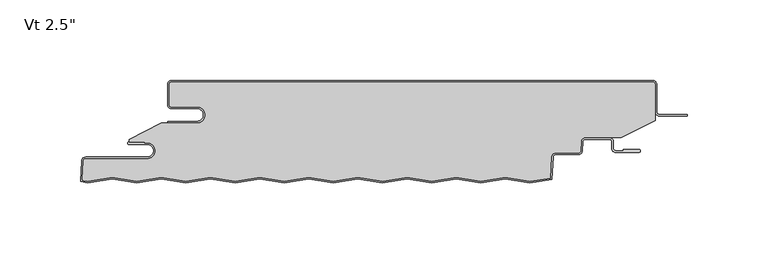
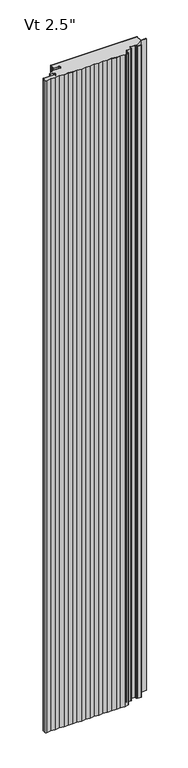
"""IFC4 building model written with IfcOpenShell, lengths in millimetres: plate geometry."""

from ifc_helpers import new_model, si_unit, point, frame, frame_2d, origin, origin_with_axes, place, context, project, spatial, polyline, circle_curve, ellipse_curve, trimmed, segment, composite_curve, outline, extrude, source, transform, mapped, element, save
from ifc_brep_helpers import plane_surface, cylinder_surface, revolved_surface, extruded_surface, advanced_brep


def plate_9ff295e8(model_context):
    return source(origin(), model_context, "Body", "SolidModel", [
        extrude(outline(composite_curve([segment(polyline([(-133.35625, -16.4625), (-149.23125, -16.4625)]), True, "CONTINUOUS"), segment(trimmed(circle_curve(frame_2d((-149.23125, -15.08125)), 1.38125), [point((-149.23125, -16.4625))], [point((-150.6125, -15.08125))], False, "CARTESIAN"), True, "CONTINUOUS"), segment(polyline([(-150.6125, -15.08125), (-150.6125, -2.38125)]), True, "CONTINUOUS"), segment(trimmed(circle_curve(frame_2d((-149.23125, -2.38125)), 1.38125), [point((-150.6125, -2.38125))], [point((-149.23125, -1.0))], False, "CARTESIAN"), True, "CONTINUOUS"), segment(polyline([(-149.23125, -1.0), (149.21875, -1.0)]), True, "CONTINUOUS"), segment(trimmed(circle_curve(frame_2d((149.21875, -2.38125)), 1.38125), [point((149.21875, -1.0))], [point((150.6, -2.38125))], False, "CARTESIAN"), True, "CONTINUOUS"), segment(polyline([(150.6, -2.38125), (150.6, -24.9057308), (129.7830434, -35.5125), (107.3415783, -35.5125)]), True, "CONTINUOUS"), segment(trimmed(circle_curve(frame_2d((107.3415783, -38.1)), 2.5875), [point((107.3415783, -35.5125))], [point((104.7576244, -37.9645807))], True, "CARTESIAN"), True, "CONTINUOUS"), segment(polyline([(104.7576244, -37.9645807), (104.4555481, -43.728539)]), True, "CONTINUOUS"), segment(trimmed(circle_curve(frame_2d((103.0761911, -43.65625)), 1.38125), [point((104.4555481, -43.728539))], [point((103.0761911, -45.0375))], False, "CARTESIAN"), True, "CONTINUOUS"), segment(polyline([(103.0761911, -45.0375), (88.9198847, -45.0375)]), True, "CONTINUOUS"), segment(trimmed(circle_curve(frame_2d((88.9198847, -47.625)), 2.5875), [point((88.9198847, -45.0375))], [point((86.3359307, -47.4895807))], True, "CARTESIAN"), True, "CONTINUOUS"), segment(polyline([(86.3359307, -47.4895807), (85.6427661, -60.71595), (72.86, -62.7611926), (57.8225675, -60.3552034), (42.5825675, -62.7936034), (27.3425675, -60.3552034), (12.1025675, -62.7936034), (-3.1374325, -60.3552034), (-18.3774325, -62.7936034), (-33.6174325, -60.3552034), (-48.8574325, -62.7936034), (-64.0974325, -60.3552034), (-79.3374325, -62.7936034), (-94.5774325, -60.3552034), (-109.8174325, -62.7936034), (-125.0574325, -60.3552034), (-140.2974325, -62.7936034), (-155.5374325, -60.3552034), (-170.7774325, -62.7936034), (-186.0174325, -60.3552034), (-201.2574325, -62.7936034), (-203.5234208, -62.4310452)]), True, "CONTINUOUS"), segment(trimmed(circle_curve(frame_2d((-203.0924535, -61.11875)), 1.38125), [point((-203.5234208, -62.4310452))], [point((-204.4718106, -61.046461))], False, "CARTESIAN"), True, "CONTINUOUS"), segment(polyline([(-204.4718106, -61.046461), (-203.8894291, -49.933961)]), True, "CONTINUOUS"), segment(trimmed(circle_curve(frame_2d((-202.5100721, -50.00625)), 1.38125), [point((-203.8894291, -49.933961))], [point((-202.5100721, -48.625))], False, "CARTESIAN"), True, "CONTINUOUS"), segment(polyline([(-202.5100721, -48.625), (-164.3267674, -48.625)]), True, "CONTINUOUS"), segment(trimmed(circle_curve(frame_2d((-164.3267674, -43.65625)), 4.96875), [point((-164.3267674, -48.625))], [point((-164.3267674, -38.6875))], True, "CARTESIAN"), True, "CONTINUOUS"), segment(polyline([(-164.3267674, -38.6875), (-165.9142674, -38.89375), (-165.9142674, -38.1), (-175.425, -38.1), (-175.425, -36.5326309), (-155.5385922, -26.4), (-133.35625, -26.4)]), True, "CONTINUOUS"), segment(trimmed(circle_curve(frame_2d((-133.35625, -21.43125)), 4.96875), [point((-133.35625, -26.4))], [point((-133.35625, -16.4625))], True, "CARTESIAN"), True, "CONTINUOUS")], self_intersect=False)), origin_with_axes(), (0.0, 0.0, 1.0), 2400.0),
        extrude(outline(composite_curve([segment(polyline([(-151.6125, -25.4), (-133.35625, -25.4)]), True, "CONTINUOUS"), segment(trimmed(circle_curve(frame_2d((-133.35625, -21.43125)), 3.96875), [point((-133.35625, -25.4))], [point((-133.35625, -17.4625))], True, "CARTESIAN"), True, "CONTINUOUS"), segment(polyline([(-133.35625, -17.4625), (-149.23125, -17.4625)]), True, "CONTINUOUS"), segment(trimmed(circle_curve(frame_2d((-149.23125, -15.08125)), 2.38125), [point((-149.23125, -17.4625))], [point((-151.6125, -15.08125))], False, "CARTESIAN"), True, "CONTINUOUS"), segment(polyline([(-151.6125, -15.08125), (-151.6125, -2.38125)]), True, "CONTINUOUS"), segment(trimmed(circle_curve(frame_2d((-149.23125, -2.38125)), 2.38125), [point((-151.6125, -2.38125))], [point((-149.23125, 0.0))], False, "CARTESIAN"), True, "CONTINUOUS"), segment(polyline([(-149.23125, 0.0), (149.21875, 0.0)]), True, "CONTINUOUS"), segment(trimmed(circle_curve(frame_2d((149.21875, -2.38125)), 2.38125), [point((149.21875, 0.0))], [point((151.6, -2.38125))], False, "CARTESIAN"), True, "CONTINUOUS"), segment(polyline([(151.6, -2.38125), (151.6, -19.446875)]), True, "CONTINUOUS"), segment(trimmed(circle_curve(frame_2d((153.1875, -19.446875)), 1.5875), [point((151.6, -19.446875))], [point((153.1875, -21.034375))], True, "CARTESIAN"), True, "CONTINUOUS"), segment(polyline([(153.1875, -21.034375), (170.65, -21.034375), (170.65, -22.034375), (153.1875, -22.034375)]), True, "CONTINUOUS"), segment(trimmed(circle_curve(frame_2d((153.1875, -19.446875)), 2.5875), [point((153.1875, -22.034375))], [point((150.6, -19.446875))], False, "CARTESIAN"), True, "CONTINUOUS"), segment(polyline([(150.6, -19.446875), (150.6, -2.38125)]), True, "CONTINUOUS"), segment(trimmed(circle_curve(frame_2d((149.21875, -2.38125)), 1.38125), [point((150.6, -2.38125))], [point((149.21875, -1.0))], True, "CARTESIAN"), True, "CONTINUOUS"), segment(polyline([(149.21875, -1.0), (-149.23125, -1.0)]), True, "CONTINUOUS"), segment(trimmed(circle_curve(frame_2d((-149.23125, -2.38125)), 1.38125), [point((-149.23125, -1.0))], [point((-150.6125, -2.38125))], True, "CARTESIAN"), True, "CONTINUOUS"), segment(polyline([(-150.6125, -2.38125), (-150.6125, -15.08125)]), True, "CONTINUOUS"), segment(trimmed(circle_curve(frame_2d((-149.23125, -15.08125)), 1.38125), [point((-150.6125, -15.08125))], [point((-149.23125, -16.4625))], True, "CARTESIAN"), True, "CONTINUOUS"), segment(polyline([(-149.23125, -16.4625), (-133.35625, -16.4625)]), True, "CONTINUOUS"), segment(trimmed(circle_curve(frame_2d((-133.35625, -21.43125)), 4.96875), [point((-133.35625, -16.4625))], [point((-133.35625, -26.4))], False, "CARTESIAN"), True, "CONTINUOUS"), segment(polyline([(-133.35625, -26.4), (-151.6125, -26.4), (-151.6125, -25.4)]), True, "CONTINUOUS")], self_intersect=False)), origin_with_axes(), (0.0, 0.0, 1.0), 2400.0),
        advanced_brep(
        [(-175.6377049, -38.1, 2400.0), (-175.6377049, -39.6875, 2400.0), (-164.3267674, -39.6875, 2400.0), (-164.3267674, -47.625, 2400.0), (-202.5100721, -47.625, 2400.0), (-204.8880586, -49.881625, 2400.0), (-205.5658062, -62.813818, 2400.0), (-201.2771686, -63.5, 2400.0), (-186.0371686, -61.0616, 2400.0), (-170.7971686, -63.5, 2400.0), (-155.5571686, -61.0616, 2400.0), (-140.3171686, -63.5, 2400.0), (-125.0771686, -61.0616, 2400.0), (-109.8371686, -63.5, 2400.0), (-94.5971686, -61.0616, 2400.0), (-79.3571686, -63.5, 2400.0), (-64.1171686, -61.0616, 2400.0), (-48.8771686, -63.5, 2400.0), (-33.6371686, -61.0616, 2400.0), (-18.3971686, -63.5, 2400.0), (-3.1571686, -61.0616, 2400.0), (12.0828314, -63.5, 2400.0), (27.3228314, -61.0616, 2400.0), (42.5628314, -63.5, 2400.0), (57.8028314, -61.0616, 2400.0), (72.9415476, -63.4837946, 2400.0), (86.6120135, -61.3289309, 2400.0), (87.3345603, -47.5419167, 2400.0), (88.9198847, -46.0375, 2400.0), (103.0761911, -46.0375, 2400.0), (105.4541776, -43.780875, 2400.0), (105.7562539, -38.0169167, 2400.0), (107.3415783, -36.5125, 2400.0), (122.2169826, -36.5125, 2400.0), (123.8044826, -38.1, 2400.0), (123.8044826, -42.2671875, 2400.0), (126.1857326, -44.6484375, 2400.0), (140.6773532, -44.6484375, 2400.0), (140.6773532, -42.8546875, 2400.0), (130.9482326, -42.8546875, 2400.0), (130.9482326, -43.6484375, 2400.0), (126.1857326, -43.6484375, 2400.0), (124.8044826, -42.2671875, 2400.0), (124.8044826, -38.1, 2400.0), (122.2169826, -35.5125, 2400.0), (107.3415783, -35.5125, 2400.0), (104.7576244, -37.9645807, 2400.0), (104.4555481, -43.728539, 2400.0), (103.0761911, -45.0375, 2400.0), (88.9198847, -45.0375, 2400.0), (86.3359307, -47.4895807, 2400.0), (85.6556965, -60.4692225, 2400.0), (73.0428314, -62.4872809, 2400.0), (57.8028314, -60.0488809, 2400.0), (42.5628314, -62.4872809, 2400.0), (27.3228314, -60.0488809, 2400.0), (12.0828314, -62.4872809, 2400.0), (-3.1571686, -60.0488809, 2400.0), (-18.3971686, -62.4872809, 2400.0), (-33.6371686, -60.0488809, 2400.0), (-48.8771686, -62.4872809, 2400.0), (-64.1171686, -60.0488809, 2400.0), (-79.3571686, -62.4872809, 2400.0), (-94.5971686, -60.0488809, 2400.0), (-109.8371686, -62.4872809, 2400.0), (-125.0771686, -60.0488809, 2400.0), (-140.3171686, -62.4872809, 2400.0), (-155.5571686, -60.0488809, 2400.0), (-170.7971686, -62.4872809, 2400.0), (-186.0371686, -60.0488809, 2400.0), (-201.2771686, -62.4872809, 2400.0), (-204.5201277, -61.9684074, 2400.0), (-203.8894291, -49.933961, 2400.0), (-202.5100721, -48.625, 2400.0), (-164.3267674, -48.625, 2400.0), (-164.3267674, -38.6875, 2400.0), (-165.9142674, -38.89375, 2400.0), (-165.9142674, -38.1, 2400.0), (-175.6377049, -38.1, 0.0), (-165.9142674, -38.1, 0.0), (-165.9142674, -38.89375, 0.0), (-164.3267674, -38.6875, 0.0), (-164.3267674, -48.625, 0.0), (-202.5100721, -48.625, 0.0), (-203.8894291, -49.933961, 0.0), (-204.5201277, -61.9684074, 0.0), (-201.2771686, -62.4872809, 0.0), (-186.0371686, -60.0488809, 0.0), (-170.7971686, -62.4872809, 0.0), (-155.5571686, -60.0488809, 0.0), (-140.3171686, -62.4872809, 0.0), (-125.0771686, -60.0488809, 0.0), (-109.8371686, -62.4872809, 0.0), (-94.5971686, -60.0488809, 0.0), (-79.3571686, -62.4872809, 0.0), (-64.1171686, -60.0488809, 0.0), (-48.8771686, -62.4872809, 0.0), (-33.6371686, -60.0488809, 0.0), (-18.3971686, -62.4872809, 0.0), (-3.1571686, -60.0488809, 0.0), (12.0828314, -62.4872809, 0.0), (27.3228314, -60.0488809, 0.0), (42.5628314, -62.4872809, 0.0), (57.8028314, -60.0488809, 0.0), (72.9415476, -62.4710755, 0.0), (85.6556965, -60.4692225, 0.0), (86.3359307, -47.4895807, 0.0), (88.9198847, -45.0375, 0.0), (103.0761911, -45.0375, 0.0), (104.4555481, -43.728539, 0.0), (104.7576244, -37.9645807, 0.0), (107.3415783, -35.5125, 0.0), (122.2169826, -35.5125, 0.0), (124.8044826, -38.1, 0.0), (124.8044826, -42.2671875, 0.0), (126.1857326, -43.6484375, 0.0), (130.9482326, -43.6484375, 0.0), (130.9482326, -42.8546875, 0.0), (140.6773532, -42.8546875, 0.0), (140.6773532, -44.6484375, 0.0), (126.1857326, -44.6484375, 0.0), (123.8044826, -42.2671875, 0.0), (123.8044826, -38.1, 0.0), (122.2169826, -36.5125, 0.0), (107.3415783, -36.5125, 0.0), (105.7562539, -38.0169167, 0.0), (105.4541776, -43.780875, 0.0), (103.0761911, -46.0375, 0.0), (88.9198847, -46.0375, 0.0), (87.3345603, -47.5419167, 0.0), (86.6120135, -61.3289309, 0.0), (73.0428314, -63.5, 0.0), (57.8028314, -61.0616, 0.0), (42.5628314, -63.5, 0.0), (27.3228314, -61.0616, 0.0), (12.0828314, -63.5, 0.0), (-3.1571686, -61.0616, 0.0), (-18.3971686, -63.5, 0.0), (-33.6371686, -61.0616, 0.0), (-48.8771686, -63.5, 0.0), (-64.1171686, -61.0616, 0.0), (-79.3571686, -63.5, 0.0), (-94.5971686, -61.0616, 0.0), (-109.8371686, -63.5, 0.0), (-125.0771686, -61.0616, 0.0), (-140.3171686, -63.5, 0.0), (-155.5571686, -61.0616, 0.0), (-170.7971686, -63.5, 0.0), (-186.0371686, -61.0616, 0.0), (-201.2771686, -63.5, 0.0), (-205.5658062, -62.813818, 0.0), (-204.8880586, -49.881625, 0.0), (-202.5100721, -47.625, 0.0), (-164.3267674, -47.625, 0.0), (-164.3267674, -39.6875, 0.0), (-175.6377049, -39.6875, 0.0)],
        [
            (0, 1, circle_curve(frame((-175.6377049, -38.89375, 2400.0), z_axis=(0.0, 0.0, 1.0), x_axis=(1.0, 0.0, 0.0)), 0.79375)),
            (1, 2),
            (2, 3, circle_curve(frame((-164.3267674, -43.65625, 2400.0), z_axis=(0.0, 0.0, -1.0), x_axis=(1.0, 0.0, 0.0)), 3.96875)),
            (3, 4),
            (4, 5, circle_curve(frame((-202.5100721, -50.00625, 2400.0), z_axis=(0.0, 0.0, 1.0), x_axis=(1.0, 0.0, 0.0)), 2.38125)),
            (5, 6),
            (6, 7),
            (7, 8),
            (8, 9),
            (9, 10),
            (10, 11),
            (11, 12),
            (12, 13),
            (13, 14),
            (14, 15),
            (15, 16),
            (16, 17),
            (17, 18),
            (18, 19),
            (19, 20),
            (20, 21),
            (21, 22),
            (22, 23),
            (23, 24),
            (24, 25),
            (25, 26),
            (26, 27),
            (27, 28, circle_curve(frame((88.9198847, -47.625, 2400.0), z_axis=(0.0, 0.0, -1.0), x_axis=(1.0, 0.0, 0.0)), 1.5875)),
            (28, 29),
            (29, 30, circle_curve(frame((103.0761911, -43.65625, 2400.0), z_axis=(0.0, 0.0, 1.0), x_axis=(1.0, 0.0, 0.0)), 2.38125)),
            (30, 31),
            (31, 32, circle_curve(frame((107.3415783, -38.1, 2400.0), z_axis=(0.0, 0.0, -1.0), x_axis=(1.0, 0.0, 0.0)), 1.5875)),
            (32, 33),
            (33, 34, circle_curve(frame((122.2169826, -38.1, 2400.0), z_axis=(0.0, 0.0, -1.0), x_axis=(1.0, 0.0, 0.0)), 1.5875)),
            (34, 35),
            (35, 36, circle_curve(frame((126.1857326, -42.2671875, 2400.0), z_axis=(0.0, 0.0, 1.0), x_axis=(1.0, 0.0, 0.0)), 2.38125)),
            (36, 37),
            (37, 38, ellipse_curve(frame((140.6773532, -43.7515625, 2400.0), z_axis=(0.0, 0.0, 1.0), x_axis=(0.0, 1.0, 0.0)), 0.896875, 0.7852275)),
            (38, 39),
            (39, 40),
            (40, 41),
            (41, 42, circle_curve(frame((126.1857326, -42.2671875, 2400.0), z_axis=(0.0, 0.0, -1.0), x_axis=(1.0, 0.0, 0.0)), 1.38125)),
            (42, 43),
            (43, 44, circle_curve(frame((122.2169826, -38.1, 2400.0), z_axis=(0.0, 0.0, 1.0), x_axis=(1.0, 0.0, 0.0)), 2.5875)),
            (44, 45),
            (45, 46, circle_curve(frame((107.3415783, -38.1, 2400.0), z_axis=(0.0, 0.0, 1.0), x_axis=(1.0, 0.0, 0.0)), 2.5875)),
            (46, 47),
            (47, 48, circle_curve(frame((103.0761911, -43.65625, 2400.0), z_axis=(0.0, 0.0, -1.0), x_axis=(1.0, 0.0, 0.0)), 1.38125)),
            (48, 49),
            (49, 50, circle_curve(frame((88.9198847, -47.625, 2400.0), z_axis=(0.0, 0.0, 1.0), x_axis=(1.0, 0.0, 0.0)), 2.5875)),
            (50, 51),
            (51, 52),
            (52, 53),
            (53, 54),
            (54, 55),
            (55, 56),
            (56, 57),
            (57, 58),
            (58, 59),
            (59, 60),
            (60, 61),
            (61, 62),
            (62, 63),
            (63, 64),
            (64, 65),
            (65, 66),
            (66, 67),
            (67, 68),
            (68, 69),
            (69, 70),
            (70, 71),
            (71, 72),
            (72, 73, circle_curve(frame((-202.5100721, -50.00625, 2400.0), z_axis=(0.0, 0.0, -1.0), x_axis=(1.0, 0.0, 0.0)), 1.38125)),
            (73, 74),
            (74, 75, circle_curve(frame((-164.3267674, -43.65625, 2400.0), z_axis=(0.0, 0.0, 1.0), x_axis=(1.0, 0.0, 0.0)), 4.96875)),
            (75, 76),
            (76, 77),
            (77, 0),
            (78, 79),
            (79, 80),
            (80, 81),
            (81, 82, circle_curve(frame((-164.3267674, -43.65625, 0.0), z_axis=(0.0, 0.0, -1.0), x_axis=(1.0, 0.0, 0.0)), 4.96875)),
            (82, 83),
            (83, 84, circle_curve(frame((-202.5100721, -50.00625, 0.0), z_axis=(0.0, 0.0, 1.0), x_axis=(1.0, 0.0, 0.0)), 1.38125)),
            (84, 85),
            (85, 86),
            (86, 87),
            (87, 88),
            (88, 89),
            (89, 90),
            (90, 91),
            (91, 92),
            (92, 93),
            (93, 94),
            (94, 95),
            (95, 96),
            (96, 97),
            (97, 98),
            (98, 99),
            (99, 100),
            (100, 101),
            (101, 102),
            (102, 103),
            (103, 104),
            (104, 105),
            (105, 106),
            (106, 107, circle_curve(frame((88.9198847, -47.625, 0.0), z_axis=(0.0, 0.0, -1.0), x_axis=(1.0, 0.0, 0.0)), 2.5875)),
            (107, 108),
            (108, 109, circle_curve(frame((103.0761911, -43.65625, 0.0), z_axis=(0.0, 0.0, 1.0), x_axis=(1.0, 0.0, 0.0)), 1.38125)),
            (109, 110),
            (110, 111, circle_curve(frame((107.3415783, -38.1, 0.0), z_axis=(0.0, 0.0, -1.0), x_axis=(1.0, 0.0, 0.0)), 2.5875)),
            (111, 112),
            (112, 113, circle_curve(frame((122.2169826, -38.1, 0.0), z_axis=(0.0, 0.0, -1.0), x_axis=(1.0, 0.0, 0.0)), 2.5875)),
            (113, 114),
            (114, 115, circle_curve(frame((126.1857326, -42.2671875, 0.0), z_axis=(0.0, 0.0, 1.0), x_axis=(1.0, 0.0, 0.0)), 1.38125)),
            (115, 116),
            (116, 117),
            (117, 118),
            (118, 119, ellipse_curve(frame((140.6773532, -43.7515625, 0.0), z_axis=(0.0, 0.0, -1.0), x_axis=(0.0, 1.0, 0.0)), 0.896875, 0.7852275)),
            (119, 120),
            (120, 121, circle_curve(frame((126.1857326, -42.2671875, 0.0), z_axis=(0.0, 0.0, -1.0), x_axis=(1.0, 0.0, 0.0)), 2.38125)),
            (121, 122),
            (122, 123, circle_curve(frame((122.2169826, -38.1, 0.0), z_axis=(0.0, 0.0, 1.0), x_axis=(1.0, 0.0, 0.0)), 1.5875)),
            (123, 124),
            (124, 125, circle_curve(frame((107.3415783, -38.1, 0.0), z_axis=(0.0, 0.0, 1.0), x_axis=(1.0, 0.0, 0.0)), 1.5875)),
            (125, 126),
            (126, 127, circle_curve(frame((103.0761911, -43.65625, 0.0), z_axis=(0.0, 0.0, -1.0), x_axis=(1.0, 0.0, 0.0)), 2.38125)),
            (127, 128),
            (128, 129, circle_curve(frame((88.9198847, -47.625, 0.0), z_axis=(0.0, 0.0, 1.0), x_axis=(1.0, 0.0, 0.0)), 1.5875)),
            (129, 130),
            (130, 131),
            (131, 132),
            (132, 133),
            (133, 134),
            (134, 135),
            (135, 136),
            (136, 137),
            (137, 138),
            (138, 139),
            (139, 140),
            (140, 141),
            (141, 142),
            (142, 143),
            (143, 144),
            (144, 145),
            (145, 146),
            (146, 147),
            (147, 148),
            (148, 149),
            (149, 150),
            (150, 151),
            (151, 152, circle_curve(frame((-202.5100721, -50.00625, 0.0), z_axis=(0.0, 0.0, -1.0), x_axis=(1.0, 0.0, 0.0)), 2.38125)),
            (152, 153),
            (153, 154, circle_curve(frame((-164.3267674, -43.65625, 0.0), z_axis=(0.0, 0.0, 1.0), x_axis=(1.0, 0.0, 0.0)), 3.96875)),
            (154, 155),
            (155, 78, circle_curve(frame((-175.6377049, -38.89375, 0.0), z_axis=(0.0, 0.0, -1.0), x_axis=(1.0, 0.0, 0.0)), 0.79375)),
            (77, 79),
            (78, 0),
            (155, 1),
            (154, 2),
            (153, 3),
            (152, 4),
            (151, 5),
            (150, 6),
            (27, 129),
            (128, 28),
            (127, 29),
            (126, 30),
            (125, 31),
            (124, 32),
            (72, 84),
            (83, 73),
            (71, 85),
            (49, 107),
            (106, 50),
            (48, 108),
            (47, 109),
            (46, 110),
            (45, 111),
            (40, 116),
            (115, 41),
            (114, 42),
            (113, 43),
            (123, 33),
            (122, 34),
            (121, 35),
            (120, 36),
            (119, 37),
            (44, 112),
            (82, 74),
            (81, 75),
            (76, 80),
            (39, 117),
            (38, 118),
            (26, 130),
            (105, 51),
            (24, 132),
            (131, 25),
            (52, 104),
            (103, 53),
            (102, 54),
            (101, 55),
            (100, 56),
            (65, 91),
            (90, 66),
            (89, 67),
            (88, 68),
            (87, 69),
            (86, 70),
            (149, 7),
            (148, 8),
            (147, 9),
            (146, 10),
            (145, 11),
            (144, 12),
            (143, 13),
            (142, 14),
            (141, 15),
            (140, 16),
            (139, 17),
            (138, 18),
            (21, 135),
            (134, 22),
            (133, 23),
            (20, 136),
            (19, 137),
            (64, 92),
            (63, 93),
            (62, 94),
            (61, 95),
            (60, 96),
            (59, 97),
            (58, 98),
            (57, 99),
        ],
        [
            plane_surface(frame((-0.00625, -63.5, 2400.0), z_axis=(0.0, 0.0, 1.0), x_axis=(0.0, -1.0, 0.0))),
            plane_surface(frame((-0.00625, -63.5, 0.0), z_axis=(0.0, 0.0, -1.0), x_axis=(0.0, -1.0, 0.0))),
            plane_surface(frame((-175.6377049, -38.1, 2400.0), z_axis=(0.0, 1.0, 0.0), x_axis=(0.0, 0.0, -1.0))),
            cylinder_surface(frame((-175.6377049, -38.89375, 2400.0), z_axis=(0.0, 0.0, 1.0), x_axis=(1.0, 0.0, 0.0)), 0.79375),
            plane_surface(frame((-164.3267674, -39.6875, 2400.0), z_axis=(0.0, -1.0, 0.0), x_axis=(0.0, 0.0, -1.0))),
            revolved_surface(polyline([(-160.3580174, -43.65625, 0.0), (-160.3580174, -43.65625, 2400.0)]), (-164.3267674, -43.65625, 2400.0), (0.0, 0.0, -1.0)),
            plane_surface(frame((-202.5100721, -47.625, 2400.0), z_axis=(0.0, 1.0, 0.0), x_axis=(0.0, 0.0, -1.0))),
            cylinder_surface(frame((-202.5100721, -50.00625, 2400.0), z_axis=(0.0, 0.0, 1.0), x_axis=(1.0, 0.0, 0.0)), 2.38125),
            plane_surface(frame((-205.5658062, -62.813818, 2400.0), z_axis=(-0.9986295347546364, 0.05233595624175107, 0.0), x_axis=(0.0, 0.0, -1.0))),
            revolved_surface(polyline([(90.5073847, -47.625, 0.0), (90.5073847, -47.625, 2400.0)]), (88.9198847, -47.625, 2400.0), (0.0, 0.0, -1.0)),
            plane_surface(frame((103.0761911, -46.0375, 2400.0), z_axis=(0.0, -1.0, 0.0), x_axis=(0.0, 0.0, -1.0))),
            cylinder_surface(frame((103.0761911, -43.65625, 2400.0), z_axis=(0.0, 0.0, 1.0), x_axis=(1.0, 0.0, 0.0)), 2.38125),
            plane_surface(frame((105.7562539, -38.0169167, 2400.0), z_axis=(0.9986295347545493, -0.052335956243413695, 0.0), x_axis=(0.0, 0.0, -1.0))),
            revolved_surface(polyline([(108.9290783, -38.1, 0.0), (108.9290783, -38.1, 2400.0)]), (107.3415783, -38.1, 2400.0), (0.0, 0.0, -1.0)),
            revolved_surface(polyline([(-201.1288221, -50.00625, 0.0), (-201.1288221, -50.00625, 2400.0)]), (-202.5100721, -50.00625, 2400.0), (0.0, 0.0, -1.0)),
            plane_surface(frame((-203.8894291, -49.933961, 2400.0), z_axis=(0.9986295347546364, -0.05233595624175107, 0.0), x_axis=(0.0, 0.0, -1.0))),
            cylinder_surface(frame((88.9198847, -47.625, 2400.0), z_axis=(0.0, 0.0, 1.0), x_axis=(1.0, 0.0, 0.0)), 2.5875),
            plane_surface(frame((88.9198847, -45.0375, 2400.0), z_axis=(0.0, 1.0, 0.0), x_axis=(0.0, 0.0, -1.0))),
            revolved_surface(polyline([(104.4574411, -43.65625, 0.0), (104.4574411, -43.65625, 2400.0)]), (103.0761911, -43.65625, 2400.0), (0.0, 0.0, -1.0)),
            plane_surface(frame((104.4555481, -43.728539, 2400.0), z_axis=(-0.998629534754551, 0.05233595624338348, 0.0), x_axis=(0.0, 0.0, -1.0))),
            cylinder_surface(frame((107.3415783, -38.1, 2400.0), z_axis=(0.0, 0.0, 1.0), x_axis=(1.0, 0.0, 0.0)), 2.5875),
            plane_surface(frame((126.1857326, -43.6484375, 2400.0), z_axis=(0.0, 1.0, 0.0), x_axis=(0.0, 0.0, -1.0))),
            revolved_surface(polyline([(127.56698259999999, -42.2671875, 0.0), (127.56698259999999, -42.2671875, 2400.0)]), (126.1857326, -42.2671875, 2400.0), (0.0, 0.0, -1.0)),
            plane_surface(frame((124.8044826, -38.1, 2400.0), z_axis=(1.0, 0.0, 0.0), x_axis=(0.0, 0.0, -1.0))),
            plane_surface(frame((122.2169826, -36.5125, 2400.0), z_axis=(0.0, -1.0, 0.0), x_axis=(0.0, 0.0, -1.0))),
            revolved_surface(polyline([(123.8044826, -38.1, 0.0), (123.8044826, -38.1, 2400.0)]), (122.2169826, -38.1, 2400.0), (0.0, 0.0, -1.0)),
            plane_surface(frame((123.8044826, -42.2671875, 2400.0), z_axis=(-1.0, 0.0, 0.0), x_axis=(0.0, 0.0, -1.0))),
            cylinder_surface(frame((126.1857326, -42.2671875, 2400.0), z_axis=(0.0, 0.0, 1.0), x_axis=(1.0, 0.0, 0.0)), 2.38125),
            plane_surface(frame((140.6773532, -44.6484375, 2400.0), z_axis=(0.0, -1.0, 0.0), x_axis=(0.0, 0.0, -1.0))),
            plane_surface(frame((107.3415783, -35.5125, 2400.0), z_axis=(0.0, 1.0, 0.0), x_axis=(0.0, 0.0, -1.0))),
            cylinder_surface(frame((122.2169826, -38.1, 2400.0), z_axis=(0.0, 0.0, 1.0), x_axis=(1.0, 0.0, 0.0)), 2.5875),
            plane_surface(frame((-164.3267674, -48.625, 2400.0), z_axis=(0.0, -1.0, 0.0), x_axis=(0.0, 0.0, -1.0))),
            cylinder_surface(frame((-164.3267674, -43.65625, 2400.0), z_axis=(0.0, 0.0, 1.0), x_axis=(1.0, 0.0, 0.0)), 4.96875),
            plane_surface(frame((-165.9142674, -38.1, 2400.0), z_axis=(1.0, 0.0, 0.0), x_axis=(0.0, 0.0, -1.0))),
            plane_surface(frame((-165.9142674, -38.89375, 2400.0), z_axis=(-0.12883844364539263, 0.9916655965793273, 0.0), x_axis=(0.0, 0.0, -1.0))),
            plane_surface(frame((130.9482326, -43.6484375, 2400.0), z_axis=(-1.0, 0.0, 0.0), x_axis=(0.0, 0.0, -1.0))),
            plane_surface(frame((130.9482326, -42.8546875, 2400.0), z_axis=(0.0, 1.0, 0.0), x_axis=(0.0, 0.0, -1.0))),
            extruded_surface(trimmed(ellipse_curve(frame((140.6773532, -43.7515625, 2400.0), z_axis=(0.0, 0.0, -1.0), x_axis=(0.0, 1.0, 0.0)), 0.896875, 0.7852275), [point((140.6773532, -42.8546875, 2400.0))], [point((140.6773532, -44.6484375, 2400.0))], True, "CARTESIAN"), (0.0, 0.0, -2400.0), 2400.0),
            plane_surface(frame((87.3345603, -47.5419167, 2400.0), z_axis=(0.9986295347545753, -0.052335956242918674, 0.0), x_axis=(0.0, 0.0, -1.0))),
            plane_surface(frame((85.6556965, -60.4692225, 2400.0), z_axis=(-0.9986295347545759, 0.05233595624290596, 0.0), x_axis=(0.0, 0.0, -1.0))),
            plane_surface(frame((72.9415476, -63.4837946, 2400.0), z_axis=(-0.15799050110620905, -0.9874406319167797, 0.0), x_axis=(0.0, 0.0, -1.0))),
            plane_surface(frame((57.8028314, -60.0488809, 2400.0), z_axis=(0.15799050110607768, 0.9874406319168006, 0.0), x_axis=(0.0, 0.0, -1.0))),
            plane_surface(frame((42.5628314, -62.4872809, 2400.0), z_axis=(-0.15799050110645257, 0.9874406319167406, 0.0), x_axis=(0.0, 0.0, -1.0))),
            plane_surface(frame((27.3228314, -60.0488809, 2400.0), z_axis=(0.157990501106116, 0.9874406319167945, 0.0), x_axis=(0.0, 0.0, -1.0))),
            plane_surface(frame((12.0828314, -62.4872809, 2400.0), z_axis=(-0.15799050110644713, 0.9874406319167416, 0.0), x_axis=(0.0, 0.0, -1.0))),
            plane_surface(frame((-140.3171686, -62.4872809, 2400.0), z_axis=(-0.15799050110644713, 0.9874406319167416, 0.0), x_axis=(0.0, 0.0, -1.0))),
            plane_surface(frame((-155.5571686, -60.0488809, 2400.0), z_axis=(0.15799050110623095, 0.9874406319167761, 0.0), x_axis=(0.0, 0.0, -1.0))),
            plane_surface(frame((-170.7971686, -62.4872809, 2400.0), z_axis=(-0.15799050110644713, 0.9874406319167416, 0.0), x_axis=(0.0, 0.0, -1.0))),
            plane_surface(frame((-186.0371686, -60.0488809, 2400.0), z_axis=(0.157990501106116, 0.9874406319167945, 0.0), x_axis=(0.0, 0.0, -1.0))),
            plane_surface(frame((-201.2771686, -62.4872809, 2400.0), z_axis=(-0.15799050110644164, 0.9874406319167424, 0.0), x_axis=(0.0, 0.0, -1.0))),
            plane_surface(frame((-204.5201277, -61.9684074, 2400.0), z_axis=(0.1579905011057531, 0.9874406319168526, 0.0), x_axis=(0.0, 0.0, -1.0))),
            plane_surface(frame((-201.2771686, -63.5, 2400.0), z_axis=(-0.15799050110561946, -0.9874406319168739, 0.0), x_axis=(0.0, 0.0, -1.0))),
            plane_surface(frame((-186.0371686, -61.0616, 2400.0), z_axis=(0.15799050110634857, -0.9874406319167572, 0.0), x_axis=(0.0, 0.0, -1.0))),
            plane_surface(frame((-170.7971686, -63.5, 2400.0), z_axis=(-0.15799050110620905, -0.9874406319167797, 0.0), x_axis=(0.0, 0.0, -1.0))),
            plane_surface(frame((-155.5571686, -61.0616, 2400.0), z_axis=(0.15799050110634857, -0.9874406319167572, 0.0), x_axis=(0.0, 0.0, -1.0))),
            plane_surface(frame((-140.3171686, -63.5, 2400.0), z_axis=(-0.15799050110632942, -0.9874406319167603, 0.0), x_axis=(0.0, 0.0, -1.0))),
            plane_surface(frame((-125.0771686, -61.0616, 2400.0), z_axis=(0.15799050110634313, -0.9874406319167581, 0.0), x_axis=(0.0, 0.0, -1.0))),
            plane_surface(frame((-109.8371686, -63.5, 2400.0), z_axis=(-0.15799050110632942, -0.9874406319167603, 0.0), x_axis=(0.0, 0.0, -1.0))),
            plane_surface(frame((-94.5971686, -61.0616, 2400.0), z_axis=(0.1579905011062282, -0.9874406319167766, 0.0), x_axis=(0.0, 0.0, -1.0))),
            plane_surface(frame((-79.3571686, -63.5, 2400.0), z_axis=(-0.15799050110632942, -0.9874406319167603, 0.0), x_axis=(0.0, 0.0, -1.0))),
            plane_surface(frame((-64.1171686, -61.0616, 2400.0), z_axis=(0.15799050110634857, -0.9874406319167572, 0.0), x_axis=(0.0, 0.0, -1.0))),
            plane_surface(frame((-48.8771686, -63.5, 2400.0), z_axis=(-0.15799050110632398, -0.9874406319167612, 0.0), x_axis=(0.0, 0.0, -1.0))),
            plane_surface(frame((-33.6371686, -61.0616, 2400.0), z_axis=(0.15799050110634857, -0.9874406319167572, 0.0), x_axis=(0.0, 0.0, -1.0))),
            plane_surface(frame((27.3228314, -61.0616, 2400.0), z_axis=(0.15799050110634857, -0.9874406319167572, 0.0), x_axis=(0.0, 0.0, -1.0))),
            plane_surface(frame((42.5628314, -63.5, 2400.0), z_axis=(-0.15799050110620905, -0.9874406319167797, 0.0), x_axis=(0.0, 0.0, -1.0))),
            plane_surface(frame((57.8028314, -61.0616, 2400.0), z_axis=(0.15799050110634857, -0.9874406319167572, 0.0), x_axis=(0.0, 0.0, -1.0))),
            plane_surface(frame((86.6120135, -61.3289309, 2400.0), z_axis=(0.15799050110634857, -0.9874406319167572, 0.0), x_axis=(0.0, 0.0, -1.0))),
            plane_surface(frame((73.0428314, -62.4872809, 2400.0), z_axis=(-0.15799050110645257, 0.9874406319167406, 0.0), x_axis=(0.0, 0.0, -1.0))),
            plane_surface(frame((12.0828314, -63.5, 2400.0), z_axis=(-0.15799050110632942, -0.9874406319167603, 0.0), x_axis=(0.0, 0.0, -1.0))),
            plane_surface(frame((-3.1571686, -61.0616, 2400.0), z_axis=(0.15799050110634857, -0.9874406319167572, 0.0), x_axis=(0.0, 0.0, -1.0))),
            plane_surface(frame((-18.3971686, -63.5, 2400.0), z_axis=(-0.15799050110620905, -0.9874406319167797, 0.0), x_axis=(0.0, 0.0, -1.0))),
            plane_surface(frame((-125.0771686, -60.0488809, 2400.0), z_axis=(0.15799050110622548, 0.987440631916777, 0.0), x_axis=(0.0, 0.0, -1.0))),
            plane_surface(frame((-109.8371686, -62.4872809, 2400.0), z_axis=(-0.15799050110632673, 0.9874406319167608, 0.0), x_axis=(0.0, 0.0, -1.0))),
            plane_surface(frame((-94.5971686, -60.0488809, 2400.0), z_axis=(0.15799050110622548, 0.987440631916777, 0.0), x_axis=(0.0, 0.0, -1.0))),
            plane_surface(frame((-79.3571686, -62.4872809, 2400.0), z_axis=(-0.15799050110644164, 0.9874406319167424, 0.0), x_axis=(0.0, 0.0, -1.0))),
            plane_surface(frame((-64.1171686, -60.0488809, 2400.0), z_axis=(0.15799050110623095, 0.9874406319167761, 0.0), x_axis=(0.0, 0.0, -1.0))),
            plane_surface(frame((-48.8771686, -62.4872809, 2400.0), z_axis=(-0.15799050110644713, 0.9874406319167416, 0.0), x_axis=(0.0, 0.0, -1.0))),
            plane_surface(frame((-33.6371686, -60.0488809, 2400.0), z_axis=(0.157990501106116, 0.9874406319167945, 0.0), x_axis=(0.0, 0.0, -1.0))),
            plane_surface(frame((-18.3971686, -62.4872809, 2400.0), z_axis=(-0.15799050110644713, 0.9874406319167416, 0.0), x_axis=(0.0, 0.0, -1.0))),
            plane_surface(frame((-3.1571686, -60.0488809, 2400.0), z_axis=(0.15799050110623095, 0.9874406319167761, 0.0), x_axis=(0.0, 0.0, -1.0))),
        ],
        [
            (0, [[1, 2, 3, 4, 5, 6, 7, 8, 9, 10, 11, 12, 13, 14, 15, 16, 17, 18, 19, 20, 21, 22, 23, 24, 25, 26, 27, 28, 29, 30, 31, 32, 33, 34, 35, 36, 37, 38, 39, 40, 41, 42, 43, 44, 45, 46, 47, 48, 49, 50, 51, 52, 53, 54, 55, 56, 57, 58, 59, 60, 61, 62, 63, 64, 65, 66, 67, 68, 69, 70, 71, 72, 73, 74, 75, 76, 77, 78]]),
            (1, [[79, 80, 81, 82, 83, 84, 85, 86, 87, 88, 89, 90, 91, 92, 93, 94, 95, 96, 97, 98, 99, 100, 101, 102, 103, 104, 105, 106, 107, 108, 109, 110, 111, 112, 113, 114, 115, 116, 117, 118, 119, 120, 121, 122, 123, 124, 125, 126, 127, 128, 129, 130, 131, 132, 133, 134, 135, 136, 137, 138, 139, 140, 141, 142, 143, 144, 145, 146, 147, 148, 149, 150, 151, 152, 153, 154, 155, 156]]),
            (2, [[157, -79, 158, -78]]),
            (3, [[-158, -156, 159, -1]]),
            (4, [[-159, -155, 160, -2]]),
            (5, [[-160, -154, 161, -3]]),
            (6, [[-161, -153, 162, -4]]),
            (7, [[-162, -152, 163, -5]]),
            (8, [[-163, -151, 164, -6]]),
            (9, [[165, -129, 166, -28]]),
            (10, [[-166, -128, 167, -29]]),
            (11, [[-167, -127, 168, -30]]),
            (12, [[-168, -126, 169, -31]]),
            (13, [[-169, -125, 170, -32]]),
            (14, [[171, -84, 172, -73]]),
            (15, [[173, -85, -171, -72]]),
            (16, [[174, -107, 175, -50]]),
            (17, [[176, -108, -174, -49]]),
            (18, [[177, -109, -176, -48]]),
            (19, [[178, -110, -177, -47]]),
            (20, [[179, -111, -178, -46]]),
            (21, [[180, -116, 181, -41]]),
            (22, [[-181, -115, 182, -42]]),
            (23, [[-182, -114, 183, -43]]),
            (24, [[-170, -124, 184, -33]]),
            (25, [[-184, -123, 185, -34]]),
            (26, [[-185, -122, 186, -35]]),
            (27, [[-186, -121, 187, -36]]),
            (28, [[-187, -120, 188, -37]]),
            (29, [[189, -112, -179, -45]]),
            (30, [[-183, -113, -189, -44]]),
            (31, [[-172, -83, 190, -74]]),
            (32, [[-190, -82, 191, -75]]),
            (33, [[192, -80, -157, -77]]),
            (34, [[-191, -81, -192, -76]]),
            (35, [[193, -117, -180, -40]]),
            (36, [[194, -118, -193, -39]]),
            (37, [[-188, -119, -194, -38]]),
            (38, [[195, -130, -165, -27]]),
            (39, [[-175, -106, 196, -51]]),
            (40, [[197, -132, 198, -25]]),
            (41, [[199, -104, 200, -53]]),
            (42, [[-200, -103, 201, -54]]),
            (43, [[-201, -102, 202, -55]]),
            (44, [[-202, -101, 203, -56]]),
            (45, [[204, -91, 205, -66]]),
            (46, [[-205, -90, 206, -67]]),
            (47, [[-206, -89, 207, -68]]),
            (48, [[-207, -88, 208, -69]]),
            (49, [[-208, -87, 209, -70]]),
            (50, [[-209, -86, -173, -71]]),
            (51, [[-164, -150, 210, -7]]),
            (52, [[-210, -149, 211, -8]]),
            (53, [[-211, -148, 212, -9]]),
            (54, [[-212, -147, 213, -10]]),
            (55, [[-213, -146, 214, -11]]),
            (56, [[-214, -145, 215, -12]]),
            (57, [[-215, -144, 216, -13]]),
            (58, [[-216, -143, 217, -14]]),
            (59, [[-217, -142, 218, -15]]),
            (60, [[-218, -141, 219, -16]]),
            (61, [[-219, -140, 220, -17]]),
            (62, [[-220, -139, 221, -18]]),
            (63, [[222, -135, 223, -22]]),
            (64, [[-223, -134, 224, -23]]),
            (65, [[-224, -133, -197, -24]]),
            (66, [[-198, -131, -195, -26]]),
            (67, [[-196, -105, -199, -52]]),
            (68, [[225, -136, -222, -21]]),
            (69, [[226, -137, -225, -20]]),
            (70, [[-221, -138, -226, -19]]),
            (71, [[227, -92, -204, -65]]),
            (72, [[228, -93, -227, -64]]),
            (73, [[229, -94, -228, -63]]),
            (74, [[230, -95, -229, -62]]),
            (75, [[231, -96, -230, -61]]),
            (76, [[232, -97, -231, -60]]),
            (77, [[233, -98, -232, -59]]),
            (78, [[234, -99, -233, -58]]),
            (79, [[-203, -100, -234, -57]]),
        ],
    ),
    ])


if __name__ == "__main__":
    model = new_model("IFC4")
    model_context = context("Model", 3, world=origin())
    ifc_project = project(units=[si_unit("LENGTHUNIT", "METRE", prefix="MILLI")], contexts=[model_context])
    site = spatial("IfcSite", under=ifc_project)
    building = spatial("IfcBuilding", under=site)
    placement = place(None, origin())
    plate_shape = plate_9ff295e8(model_context)
    element("IfcPlate", 1, ObjectType="KIP-12-DWHR-R19-CP-Vt-S : Vt 2.5\"", at=placement, inside=building, context=model_context, shape_type="MappedRepresentation", body=[
        mapped(plate_shape, transform((0.0, 0.0, 0.0), x_axis=(1.0, 0.0, 0.0), y_axis=(0.0, 1.0, 0.0), z_axis=(0.0, 0.0, 1.0))),
    ])
    save(model, "model.ifc")
